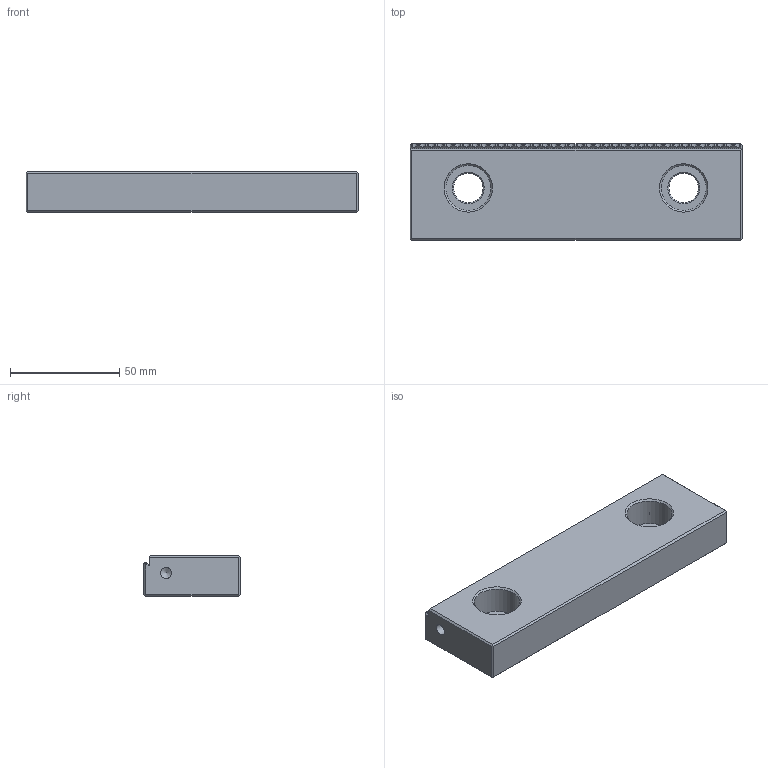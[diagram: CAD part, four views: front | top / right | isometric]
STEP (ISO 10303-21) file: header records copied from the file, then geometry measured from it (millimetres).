
FILE_DESCRIPTION (( 'STEP AP214' ), '1' );
FILE_NAME ('DJ6-1.STEP', '2025-08-15T18:49:02', ( '' ), ( '' ), 'SwSTEP 2.0', 'SolidWorks 2024', '' );
FILE_SCHEMA (( 'AUTOMOTIVE_DESIGN' ));
Length unit declared in the file: inch
Products named in the file (1): DJ6-1
Bounding box: 151.64 x 43.94 x 18.54 mm (x, y, z)
Volume: 110646 mm3; surface area: 22595.4 mm2
Topology: 1 solids, 1 shells, 388 faces, 1045 edges, 696 vertices
Faces by surface type: plane 291, cylinder 48, bspline 41, cone 8
Full cylindrical faces by diameter (mm): 0.533 x1, 1.006 x1, 1.161 x1, 5.105 x2, 13.492 x2, 20.637 x1, 20.638 x1
Entity records: 18895 total; most frequent: CARTESIAN_POINT 4740, ORIENTED_EDGE 2040, DIRECTION 1584, EDGE_CURVE 1020, VECTOR 760, LINE 760, VERTEX_POINT 688, EDGE_LOOP 446
